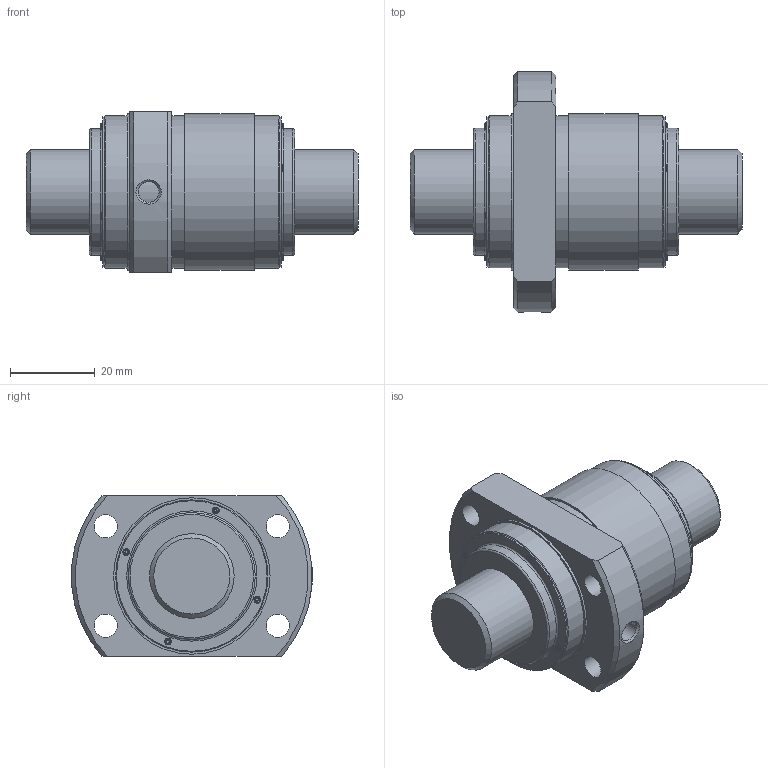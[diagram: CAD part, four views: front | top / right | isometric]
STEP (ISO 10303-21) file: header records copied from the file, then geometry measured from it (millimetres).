
FILE_DESCRIPTION(/* description */ ('STEP AP203'),/* implementation_level */ '2;1');
FILE_NAME(/* name */ 'WTF2040-2ZZ+78.5LC7T_000_rev',/* time_stamp */ '2025-06-11T06:39:37+02:00',/* author */ ('License CC BY-ND 4.0'),/* organization */ ('CADENAS'),/* preprocessor_version */ 'ST-DEVELOPER v19.3',/* originating_system */ 'PARTsolutions',/* authorisation */ ' ');
FILE_SCHEMA (('CONFIG_CONTROL_DESIGN'));
Length unit declared in the file: millimetre
Products named in the file (3): WTF2040-2ZZ+78.5LC7T_000_rev; WTF2040-20ZZ0 Shaft; WTF2040-2ZZ Nut
Assembly tree (2 placements, depth 2):
  WTF2040-2ZZ+78.5LC7T_000_rev
    WTF2040-20ZZ0 Shaft
    WTF2040-2ZZ Nut
Bounding box: 78.5 x 56.91 x 38 mm (x, y, z)
Volume: 66133.9 mm3; surface area: 18554.7 mm2
Topology: 2 solids, 2 shells, 204 faces, 513 edges, 336 vertices
Faces by surface type: plane 125, cylinder 58, torus 12, cone 9
Full cylindrical faces by diameter (mm): 1.6 x8, 4.917 x1, 5.5 x4, 20 x2, 30 x2, 35.6 x2, 36 x3, 37 x2
Entity records: 5995 total; most frequent: CARTESIAN_POINT 1057, DIRECTION 1008, ORIENTED_EDGE 942, EDGE_CURVE 471, AXIS2_PLACEMENT_3D 340, VERTEX_POINT 335, LINE 328, VECTOR 328
